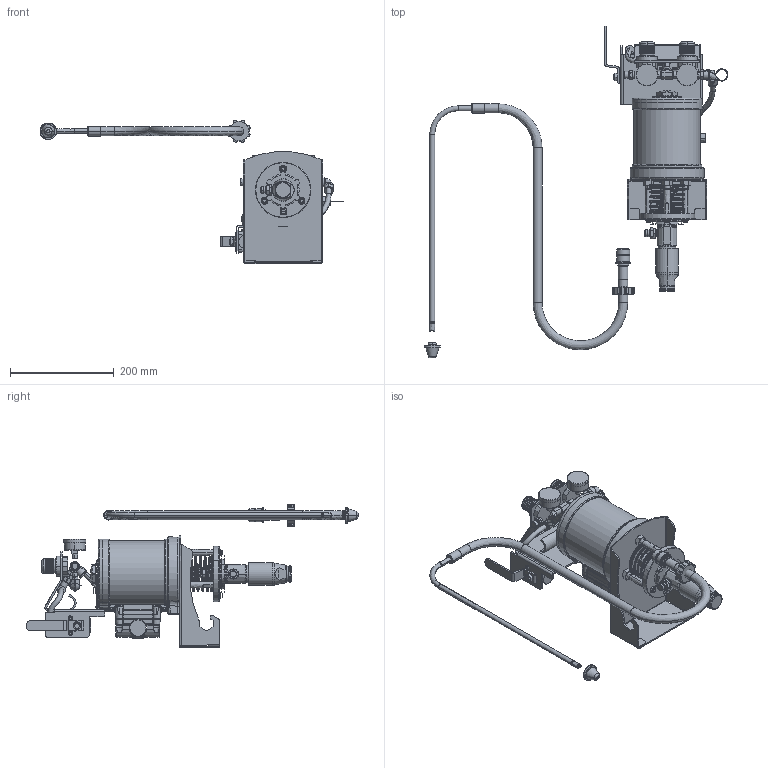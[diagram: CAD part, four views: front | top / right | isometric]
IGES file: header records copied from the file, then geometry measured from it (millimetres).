
Start section:  PTC IGES file: 24f152-en-n.igs
Global section: file name: 24f152-en-n.igs; native system: Creo Parametric by PTC Inc.; preprocessor: 2021072; author: qtmwp1; organization: Unknown; date: 20220214.112329; units: inch
Bounding box: 586.38 x 640.58 x 276.78 mm (x, y, z)
Surface area: 601118 mm2 (no closed solid volume)
Topology: 0 solids, 0 shells, 1543 faces, 7649 edges, 7629 vertices
Faces by surface type: revolution 897, bspline 646
